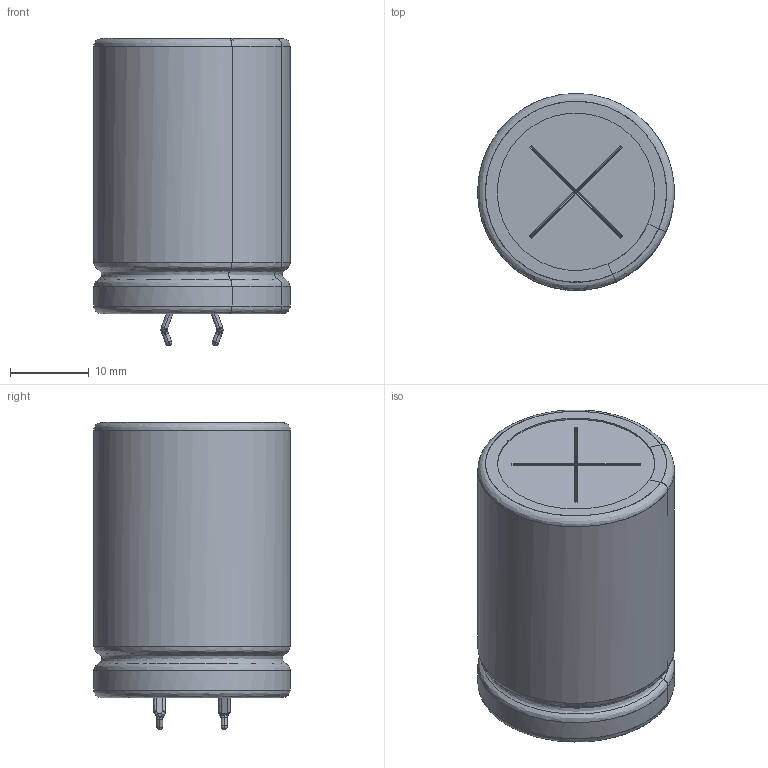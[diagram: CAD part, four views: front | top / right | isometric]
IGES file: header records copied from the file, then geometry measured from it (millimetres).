
Start section: JAMA-IS VERSION  1.0
Bounding box: 25 x 25 x 39.02 mm (x, y, z)
Surface area: 9951.9 mm2 (no closed solid volume)
Topology: 0 solids, 0 shells, 208 faces, 2226 edges, 2190 vertices
Faces by surface type: bspline 208
